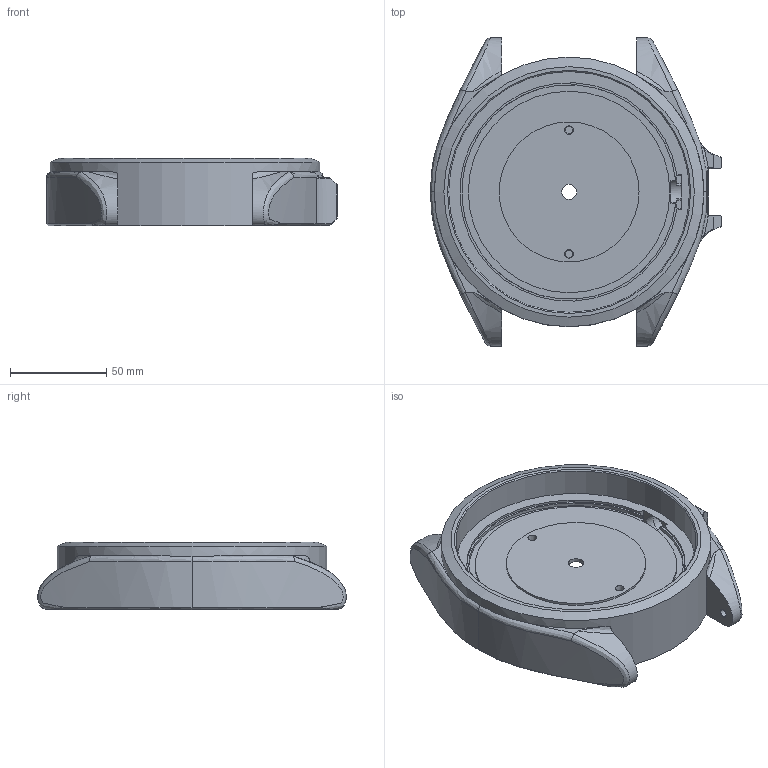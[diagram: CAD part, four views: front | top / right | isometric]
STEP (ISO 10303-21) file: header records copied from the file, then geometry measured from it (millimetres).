
FILE_DESCRIPTION(/* description */ ('STEP AP242','CAx-IF Rec.Pracs.---Representation and Presentation of Product Manufacturing Information (PMI)---4.0---2014-10-13','CAx-IF Rec.Pracs.---3D Tessellated Geometry---0.4---2014-09-14','2;1'),/* implementation_level */ '2;1');
FILE_NAME(/* name */ '66d3a10888e2e62abc2bf26c',/* time_stamp */ '2024-08-31T23:02:34Z',/* author */ (''),/* organization */ (''),/* preprocessor_version */ 'ST-DEVELOPER v20',/* originating_system */ ' ',/* authorisation */ ' ');
FILE_SCHEMA (('AP242_MANAGED_MODEL_BASED_3D_ENGINEERING_MIM_LF { 1 0 10303 442 1 1 4 }'));
Length unit declared in the file: metre
Products named in the file (1): Case
Bounding box: 151 x 160.08 x 35 mm (x, y, z)
Volume: 339159.2 mm3; surface area: 65933.7 mm2
Topology: 1 solids, 1 shells, 133 faces, 350 edges, 226 vertices
Faces by surface type: plane 66, cylinder 27, bspline 26, cone 14
Full cylindrical faces by diameter (mm): 4 x4, 5 x1, 7.4 x1, 7.8 x1, 8 x1, 13.6 x1, 15.4 x1, 72.6 x1, 104.6 x1, 125 x1, 140 x1
Entity records: 5348 total; most frequent: CARTESIAN_POINT 2397, ORIENTED_EDGE 626, DIRECTION 521, EDGE_CURVE 313, VERTEX_POINT 220, AXIS2_PLACEMENT_3D 191, FACE_BOUND 175, EDGE_LOOP 174
